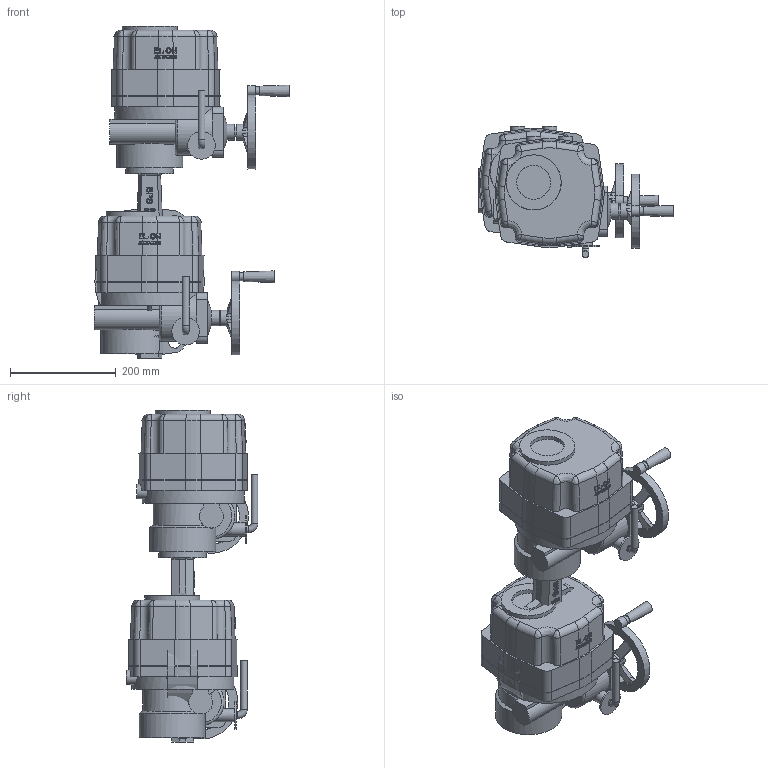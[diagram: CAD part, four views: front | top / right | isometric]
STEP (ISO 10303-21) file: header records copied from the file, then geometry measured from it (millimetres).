
FILE_DESCRIPTION( ( 'Unknown' ), '1' );
FILE_NAME( 'R:/ECCUA/ROOTSI BPS 3D vidinad/Poordklapid Wafer type/Butterfly valve(wafer) with electric actuator BPS/STEP formaat/BPS 2303150E(R) butterfly valve DN150.stp', 'Unknown', ( 'Unknown' ), ( 'Unknown' ), 'PSStep 10.1', 'Unknown', ' ' );
FILE_SCHEMA( ( 'AUTOMOTIVE_DESIGN { 1 0 10303 214 1 1 1 1 }' ) );
Length unit declared in the file: millimetre
Products named in the file (3): Assem1; Butterfly valve wafer type DN150 BPS; BPS 8005150 electric actuator DN150
Bounding box: 370 x 249 x 627 mm (x, y, z)
Volume: 18398065.6 mm3; surface area: 1117524.6 mm2
Topology: 4 solids, 6 shells, 1052 faces, 2684 edges, 1722 vertices
Faces by surface type: plane 394, cylinder 220, bspline 196, cone 116, extrusion 98, torus 28
Full cylindrical faces by diameter (mm): 9 x8, 13 x4, 15 x2, 18 x2, 22 x2, 25 x2, 27 x4, 30 x4, 52 x2, 64 x2, 90 x2, 104 x2, 106 x2, 112 x2, 125 x2, 150 x2, 187 x4, 193 x2, 207 x2
Entity records: 31417 total; most frequent: CARTESIAN_POINT 15829, ORIENTED_EDGE 2562, DIRECTION 1844, EDGE_CURVE 1281, VERTEX_POINT 847, AXIS2_PLACEMENT_3D 666, EDGE_LOOP 638, B_SPLINE_CURVE_WITH_KNOTS 583
